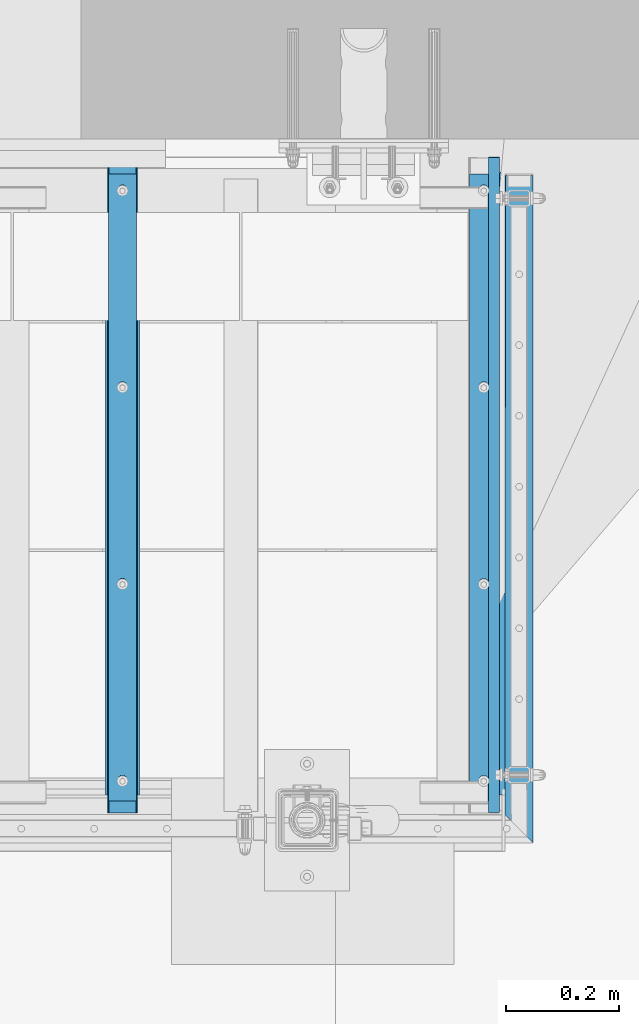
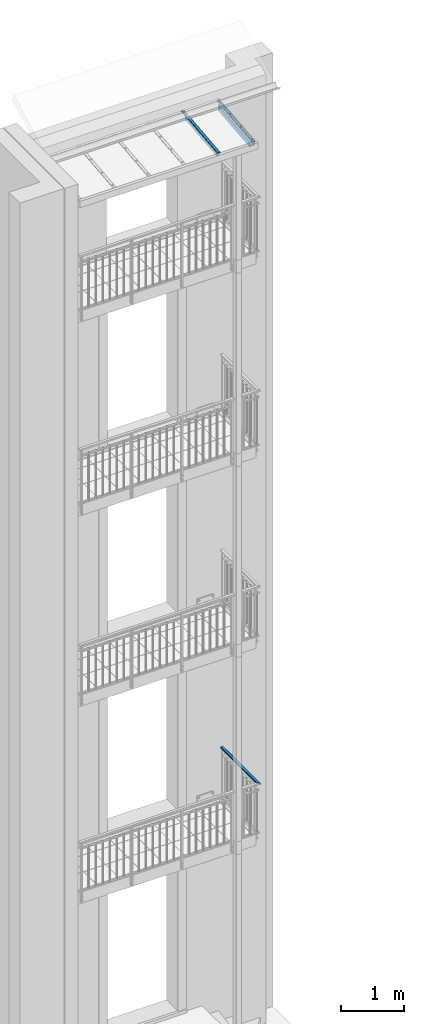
# One storey, part 45 of 162: 6 members, 1 beam, 19 openings.
"""IFC2X3 building model written with IfcOpenShell, lengths in millimetres."""

from ifc_helpers import new_model, entity, si_unit, converted_unit, point, frame, frame_2d, origin, origin_with_axes, origin_2d, origin_2d_with_axis, place, context, project, spatial, polyline, circle_curve, line_curve, trimmed, segment, composite_curve, rectangle, hollow_rectangle, circle, outline, extrude, clip, halfspace, material, element, save


model = new_model("IFC2X3")

# Units and contexts
model_context = context("Model", 3, precision=1e-09, world=origin_with_axes())
ifc_project = project(units=[si_unit("LENGTHUNIT", "METRE", prefix="MILLI"), si_unit("AREAUNIT", "SQUARE_METRE"), si_unit("VOLUMEUNIT", "CUBIC_METRE"), converted_unit("PLANEANGLEUNIT", "DEGREE", entity("IfcPlaneAngleMeasure", 0.01745329), si_unit("PLANEANGLEUNIT", "RADIAN"), dimensions=[0, 0, 0, 0, 0, 0, 0])], contexts=[model_context])

# Site, building, storey
site_placement = place(None, origin_with_axes())
site = spatial("IfcSite", under=ifc_project, at=site_placement, Name="Hermannstra?e 1a, 60318 Frankfurt", CompositionType="ELEMENT")
building_placement = place(site_placement, origin_with_axes())
building = spatial("IfcBuilding", under=site, at=building_placement, Name="Struktur 1", CompositionType="ELEMENT")
storey_placement = place(building_placement, origin_with_axes())
storey = spatial("IfcBuildingStorey", under=building, at=storey_placement, Name="Default Storey", CompositionType="ELEMENT", Elevation=0.0)

# Beam, openings
ifc_material_1 = material(Name="S235JR")
beam_placement = place(None, frame((5848.30936482, 2670.609373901, 4940.0), z_axis=(0.0, 1.0, 0.0), x_axis=(0.0, 0.0, -1.0)))
beam = element("IfcBeam", 1, at=beam_placement, inside=storey, material=ifc_material_1, Name="-", ObjectType="-", context=model_context, shape_type="Clipping", body=[
    clip(extrude(hollow_rectangle(XDim=30.0, YDim=50.0, WallThickness=3.0, InnerFilletRadius=3.0, OuterFilletRadius=6.0, at=origin_2d()), origin(), (0.0, 0.0, -1.0), 1196.231056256), halfspace(frame((4940.0, 2166.349288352, 1011.350702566), z_axis=(0.0, -0.707106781, 0.707106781), x_axis=(0.0, 0.707106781, 0.707106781)), True)),
])
opening_1_placement = place(beam_placement, frame((11.5, 0.0, -1065.001), z_axis=(-1.0, 0.0, 0.0), x_axis=(0.0, -1.0, 0.0)))
element("IfcOpeningElement", 2, at=opening_1_placement, cuts=beam, ObjectType="Opening", context=model_context, shape_type="SweptSolid", body=[
    extrude(circle(Radius=5.001, at=frame_2d((0.0, 5.001), x_axis=(1.0, 0.0))), origin(), (0.0, 0.0, -1.0), 4.0),
])
opening_2_placement = place(beam_placement, frame((11.5, 0.0, -40.0), z_axis=(1.0, 0.0, 0.0), x_axis=(0.0, 0.0, -1.0)))
element("IfcOpeningElement", 3, at=opening_2_placement, cuts=beam, ObjectType="Opening", context=model_context, shape_type="SweptSolid", body=[
    extrude(circle(Radius=5.001, at=origin_2d_with_axis()), origin(), (0.0, 0.0, 1.0), 4.0),
])
opening_3_placement = place(beam_placement, frame((0.0, -21.5, -1180.0), z_axis=(0.0, -1.0, 0.0), x_axis=(0.0, 0.0, 1.0)))
element("IfcOpeningElement", 4, at=opening_3_placement, cuts=beam, ObjectType="Opening", context=model_context, shape_type="SweptSolid", body=[
    extrude(circle(Radius=4.001, at=frame_2d((10.0, 0.0), x_axis=(1.0, 0.0))), origin(), (0.0, 0.0, 1.0), 4.0),
])

# Member, openings
member_1_placement = place(None, frame((5773.30936482, 2729.006063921, 17457.401226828), z_axis=(0.0, 0.994521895, 0.104528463), x_axis=(0.0, -0.104528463, 0.994521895)))
member_1 = element("IfcMember", 5, at=member_1_placement, inside=storey, material=ifc_material_1, Name="-", ObjectType="-", context=model_context, shape_type="Clipping", body=[
    clip(extrude(hollow_rectangle(XDim=100.0, YDim=100.0, WallThickness=4.0, InnerFilletRadius=4.0, OuterFilletRadius=8.0, at=origin_2d()), origin(), (0.0, 0.0, -1.0), 1154.995580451), halfspace(frame((-17076.5089462, -5106.079778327, -5206.08119254), z_axis=(0.0, 0.707106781, -0.707106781), x_axis=(-0.074115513, 0.705161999, 0.705161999)), True)),
])
opening_4_placement = place(member_1_placement, frame((28.999, -45.5, -1144.995580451), z_axis=(0.0, 1.0, 0.0), x_axis=(-1.0, 0.0, 0.0)))
element("IfcOpeningElement", 6, at=opening_4_placement, cuts=member_1, ObjectType="Opening", context=model_context, shape_type="SweptSolid", body=[
    extrude(circle(Radius=6.001, at=frame_2d((-6.001, 0.0), x_axis=(1.0, 0.0))), origin(), (0.0, 0.0, -1.0), 5.0),
])
opening_5_placement = place(member_1_placement, frame((-41.001, -45.5, -1144.995580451), z_axis=(0.0, 1.0, 0.0), x_axis=(-1.0, 0.0, 0.0)))
element("IfcOpeningElement", 7, at=opening_5_placement, cuts=member_1, ObjectType="Opening", context=model_context, shape_type="SweptSolid", body=[
    extrude(circle(Radius=6.001, at=frame_2d((-6.001, 0.0), x_axis=(1.0, 0.0))), origin(), (0.0, 0.0, -1.0), 5.0),
])

# Member
ifc_material_2 = material(Name="Alu")
member_2_placement = place(None, frame((5803.80936482, 2703.078061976, 17512.754242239), z_axis=(0.0, -0.994521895, -0.104528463), x_axis=(0.0, -0.104528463, 0.994521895)))
element("IfcMember", 8, at=member_2_placement, inside=storey, material=ifc_material_2, Name="Girder", ObjectType="Girder", context=model_context, shape_type="SweptSolid", body=[
    extrude(rectangle(XDim=8.0, YDim=20.0, at=origin_2d()), origin(), (0.0, 0.0, 1.0), 1164.99558045),
])

# Member, openings
member_3_placement = place(None, frame((5146.80936482, 2577.737210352, 17461.612395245), z_axis=(0.0, 0.994521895, 0.104528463), x_axis=(0.0, -0.104528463, 0.994521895)))
member_3 = element("IfcMember", 9, at=member_3_placement, inside=storey, material=ifc_material_1, Name="-", ObjectType="-", context=model_context, shape_type="SweptSolid", body=[
    extrude(hollow_rectangle(XDim=60.0, YDim=60.0, WallThickness=3.0, InnerFilletRadius=3.0, OuterFilletRadius=6.0, at=origin_2d()), origin(), (0.0, 0.0, -1.0), 1004.995580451),
])
opening_6_placement = place(member_3_placement, frame((0.0, -26.5, 0.0), z_axis=(0.0, -1.0, 0.0), x_axis=(1.0, 0.0, 0.0)))
element("IfcOpeningElement", 10, at=opening_6_placement, cuts=member_3, ObjectType="Opening", context=model_context, shape_type="SweptSolid", body=[
    extrude(circle(Radius=6.001, at=frame_2d((0.0, -10.0), x_axis=(1.0, 0.0))), origin(), (0.0, 0.0, 1.0), 4.0),
])
opening_7_placement = place(member_3_placement, frame((0.0, 26.5, -794.995580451), z_axis=(0.0, 1.0, 0.0), x_axis=(1.0, 0.0, 0.0)))
element("IfcOpeningElement", 11, at=opening_7_placement, cuts=member_3, ObjectType="Opening", context=model_context, shape_type="SweptSolid", body=[
    extrude(circle(Radius=6.001, at=frame_2d((0.0, 200.0), x_axis=(1.0, 0.0))), origin(), (0.0, 0.0, 1.0), 4.0),
])

ifc_material_3 = material(Name="Gummi")
member_4_placement = place(None, frame((5146.80936482, 1565.009235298, 17386.843906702), z_axis=(0.0, -0.994521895, -0.104528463), x_axis=(1.0, 0.0, 0.0)))
member_4 = element("IfcMember", 12, at=member_4_placement, inside=storey, material=ifc_material_3, Name="Girder", ObjectType="Girder", context=model_context, shape_type="SweptSolid", body=[
    extrude(outline(polyline([(-25.0, 1.5), (-25.0, -1.5), (25.0, -1.5), (25.0, 1.5), (-25.0, 1.5)])), origin(), (0.0, 0.0, -1.0), 1114.995580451),
])
opening_8_placement = place(member_4_placement, frame((2e-09, -2.0, -387.497790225), z_axis=(0.0, 1.0, 0.0), x_axis=(1.0, 0.0, 0.0)))
element("IfcOpeningElement", 13, at=opening_8_placement, cuts=member_4, ObjectType="Opening", context=model_context, shape_type="SweptSolid", body=[
    extrude(circle(Radius=8.001, at=origin_2d_with_axis()), origin(), (0.0, 0.0, 1.0), 4.0),
])
opening_9_placement = place(member_4_placement, frame((2e-09, -2.0, -1087.497790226), z_axis=(0.0, 1.0, 0.0), x_axis=(1.0, 0.0, 0.0)))
element("IfcOpeningElement", 14, at=opening_9_placement, cuts=member_4, ObjectType="Opening", context=model_context, shape_type="SweptSolid", body=[
    extrude(circle(Radius=8.001, at=origin_2d_with_axis()), origin(), (0.0, 0.0, 1.0), 4.0),
])
opening_10_placement = place(member_4_placement, frame((2e-09, -2.0, -737.497790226), z_axis=(0.0, 1.0, 0.0), x_axis=(1.0, 0.0, 0.0)))
element("IfcOpeningElement", 15, at=opening_10_placement, cuts=member_4, ObjectType="Opening", context=model_context, shape_type="SweptSolid", body=[
    extrude(circle(Radius=8.001, at=origin_2d_with_axis()), origin(), (0.0, 0.0, 1.0), 4.0),
])
opening_11_placement = place(member_4_placement, frame((2e-09, -2.0, -37.497790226), z_axis=(0.0, 1.0, 0.0), x_axis=(1.0, 0.0, 0.0)))
element("IfcOpeningElement", 16, at=opening_11_placement, cuts=member_4, ObjectType="Opening", context=model_context, shape_type="SweptSolid", body=[
    extrude(circle(Radius=8.001, at=origin_2d_with_axis()), origin(), (0.0, 0.0, 1.0), 4.0),
])

member_5_placement = place(None, frame((5146.80936482, 1543.575957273, 17399.432480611), z_axis=(0.0, -0.994521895, -0.104528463), x_axis=(1.0, 0.0, 0.0)))
member_5 = element("IfcMember", 17, at=member_5_placement, inside=storey, material=ifc_material_2, Name="Girder", ObjectType="Girder", context=model_context, shape_type="SweptSolid", body=[
    extrude(outline(composite_curve([segment(trimmed(line_curve((10.75, -4.5), (1.0, 0.0), 0.5), [point((10.75, -4.5))], [point((11.25, -4.5))], True, "CARTESIAN"), True, "CONTINUOUS"), segment(trimmed(line_curve((11.25, -4.5), (0.0, 1.0), 1.0), [point((11.25, -4.5))], [point((11.25, -3.5))], True, "CARTESIAN"), True, "CONTINUOUS"), segment(trimmed(line_curve((11.25, -3.5), (1.0, 0.0), 1.0), [point((11.25, -3.5))], [point((12.25, -3.5))], True, "CARTESIAN"), True, "CONTINUOUS"), segment(trimmed(line_curve((12.25, -3.5), (0.0, -1.0), 1.0), [point((12.25, -3.5))], [point((12.25, -4.5))], True, "CARTESIAN"), True, "CONTINUOUS"), segment(trimmed(line_curve((12.25, -4.5), (1.0, 0.0), 1.0), [point((12.25, -4.5))], [point((13.25, -4.5))], True, "CARTESIAN"), True, "CONTINUOUS"), segment(trimmed(line_curve((13.25, -4.5), (0.0, 1.0), 1.0), [point((13.25, -4.5))], [point((13.25, -3.5))], True, "CARTESIAN"), True, "CONTINUOUS"), segment(trimmed(line_curve((13.25, -3.5), (1.0, 0.0), 1.0), [point((13.25, -3.5))], [point((14.25, -3.5))], True, "CARTESIAN"), True, "CONTINUOUS"), segment(trimmed(line_curve((14.25, -3.5), (0.0, -1.0), 1.0), [point((14.25, -3.5))], [point((14.25, -4.5))], True, "CARTESIAN"), True, "CONTINUOUS"), segment(trimmed(line_curve((14.25, -4.5), (1.0, 0.0), 1.0), [point((14.25, -4.5))], [point((15.25, -4.5))], True, "CARTESIAN"), True, "CONTINUOUS"), segment(trimmed(line_curve((15.25, -4.5), (0.0, 1.0), 1.0), [point((15.25, -4.5))], [point((15.25, -3.5))], True, "CARTESIAN"), True, "CONTINUOUS"), segment(trimmed(line_curve((15.25, -3.5), (1.0, 0.0), 1.0), [point((15.25, -3.5))], [point((16.25, -3.5))], True, "CARTESIAN"), True, "CONTINUOUS"), segment(trimmed(line_curve((16.25, -3.5), (0.0, -1.0), 1.0), [point((16.25, -3.5))], [point((16.25, -4.5))], True, "CARTESIAN"), True, "CONTINUOUS"), segment(trimmed(line_curve((16.25, -4.5), (1.0, 0.0), 1.0), [point((16.25, -4.5))], [point((17.25, -4.5))], True, "CARTESIAN"), True, "CONTINUOUS"), segment(trimmed(line_curve((17.25, -4.5), (0.0, 1.0), 1.0), [point((17.25, -4.5))], [point((17.25, -3.5))], True, "CARTESIAN"), True, "CONTINUOUS"), segment(trimmed(line_curve((17.25, -3.5), (1.0, 0.0), 1.0), [point((17.25, -3.5))], [point((18.25, -3.5))], True, "CARTESIAN"), True, "CONTINUOUS"), segment(trimmed(line_curve((18.25, -3.5), (0.0, -1.0), 1.0), [point((18.25, -3.5))], [point((18.25, -4.5))], True, "CARTESIAN"), True, "CONTINUOUS"), segment(trimmed(line_curve((18.25, -4.5), (1.0, 0.0), 1.0), [point((18.25, -4.5))], [point((19.25, -4.5))], True, "CARTESIAN"), True, "CONTINUOUS"), segment(trimmed(line_curve((19.25, -4.5), (0.0, 1.0), 1.0), [point((19.25, -4.5))], [point((19.25, -3.5))], True, "CARTESIAN"), True, "CONTINUOUS"), segment(trimmed(line_curve((19.25, -3.5), (1.0, 0.0), 1.0), [point((19.25, -3.5))], [point((20.25, -3.5))], True, "CARTESIAN"), True, "CONTINUOUS"), segment(trimmed(line_curve((20.25, -3.5), (0.0, -1.0), 1.0), [point((20.25, -3.5))], [point((20.25, -4.5))], True, "CARTESIAN"), True, "CONTINUOUS"), segment(trimmed(line_curve((20.25, -4.5), (1.0, 0.0), 1.0), [point((20.25, -4.5))], [point((21.25, -4.5))], True, "CARTESIAN"), True, "CONTINUOUS"), segment(trimmed(line_curve((21.25, -4.5), (0.0, 1.0), 1.0), [point((21.25, -4.5))], [point((21.25, -3.5))], True, "CARTESIAN"), True, "CONTINUOUS"), segment(trimmed(line_curve((21.25, -3.5), (1.0, 0.0), 1.0), [point((21.25, -3.5))], [point((22.25, -3.5))], True, "CARTESIAN"), True, "CONTINUOUS"), segment(trimmed(line_curve((22.25, -3.5), (0.0, -1.0), 1.0), [point((22.25, -3.5))], [point((22.25, -4.5))], True, "CARTESIAN"), True, "CONTINUOUS"), segment(trimmed(line_curve((22.25, -4.5), (1.0, 0.0), 1.0), [point((22.25, -4.5))], [point((23.25, -4.5))], True, "CARTESIAN"), True, "CONTINUOUS"), segment(trimmed(line_curve((23.25, -4.5), (0.0, 1.0), 1.0), [point((23.25, -4.5))], [point((23.25, -3.5))], True, "CARTESIAN"), True, "CONTINUOUS"), segment(trimmed(line_curve((23.25, -3.5), (1.0, 0.0), 1.0), [point((23.25, -3.5))], [point((24.25, -3.5))], True, "CARTESIAN"), True, "CONTINUOUS"), segment(trimmed(line_curve((24.25, -3.5), (0.0, -1.0), 1.0), [point((24.25, -3.5))], [point((24.25, -4.5))], True, "CARTESIAN"), True, "CONTINUOUS"), segment(trimmed(line_curve((24.25, -4.5), (1.0, 0.0), 1.0), [point((24.25, -4.5))], [point((25.25, -4.5))], True, "CARTESIAN"), True, "CONTINUOUS"), segment(trimmed(line_curve((25.25, -4.5), (0.0, 1.0), 1.0), [point((25.25, -4.5))], [point((25.25, -3.5))], True, "CARTESIAN"), True, "CONTINUOUS"), segment(trimmed(line_curve((25.25, -3.5), (1.0, 0.0), 1.0), [point((25.25, -3.5))], [point((26.25, -3.5))], True, "CARTESIAN"), True, "CONTINUOUS"), segment(trimmed(line_curve((26.25, -3.5), (0.0, -1.0), 1.0), [point((26.25, -3.5))], [point((26.25, -4.5))], True, "CARTESIAN"), True, "CONTINUOUS"), segment(trimmed(line_curve((26.25, -4.5), (1.0, 0.0), 0.5), [point((26.25, -4.5))], [point((26.75, -4.5))], True, "CARTESIAN"), True, "CONTINUOUS"), segment(trimmed(line_curve((26.75, -4.5), (0.0, 1.0), 4.0), [point((26.75, -4.5))], [point((26.75, -0.5))], True, "CARTESIAN"), True, "CONTINUOUS"), segment(trimmed(line_curve((26.75, -0.5), (-1.0, 0.0), 1.75), [point((26.75, -0.5))], [point((25.0, -0.5))], True, "CARTESIAN"), True, "CONTINUOUS"), segment(trimmed(line_curve((25.0, -0.5), (0.0, 1.0), 1.5), [point((25.0, -0.5))], [point((25.0, 1.0))], True, "CARTESIAN"), True, "CONTINUOUS"), segment(trimmed(circle_curve(frame_2d((21.499999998, 0.999999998), x_axis=(1.0, 0.0)), 3.500000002), [point((25.0, 1.0))], [point((21.5, 4.5))], True, "CARTESIAN"), True, "CONTINUOUS"), segment(trimmed(line_curve((21.5, 4.5), (-1.0, 0.0), 43.0), [point((21.5, 4.5))], [point((-21.5, 4.5))], True, "CARTESIAN"), True, "CONTINUOUS"), segment(trimmed(circle_curve(frame_2d((-21.499999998, 0.999999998), x_axis=(1.0, 0.0)), 3.500000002), [point((-21.5, 4.5))], [point((-25.0, 1.0))], True, "CARTESIAN"), True, "CONTINUOUS"), segment(trimmed(line_curve((-25.0, 1.0), (0.0, -1.0), 1.5), [point((-25.0, 1.0))], [point((-25.0, -0.5))], True, "CARTESIAN"), True, "CONTINUOUS"), segment(trimmed(line_curve((-25.0, -0.5), (-1.0, 0.0), 1.75), [point((-25.0, -0.5))], [point((-26.75, -0.5))], True, "CARTESIAN"), True, "CONTINUOUS"), segment(trimmed(line_curve((-26.75, -0.5), (0.0, -1.0), 4.0), [point((-26.75, -0.5))], [point((-26.75, -4.5))], True, "CARTESIAN"), True, "CONTINUOUS"), segment(trimmed(line_curve((-26.75, -4.5), (1.0, 0.0), 0.5), [point((-26.75, -4.5))], [point((-26.25, -4.5))], True, "CARTESIAN"), True, "CONTINUOUS"), segment(trimmed(line_curve((-26.25, -4.5), (0.0, 1.0), 1.0), [point((-26.25, -4.5))], [point((-26.25, -3.5))], True, "CARTESIAN"), True, "CONTINUOUS"), segment(trimmed(line_curve((-26.25, -3.5), (1.0, 0.0), 1.0), [point((-26.25, -3.5))], [point((-25.25, -3.5))], True, "CARTESIAN"), True, "CONTINUOUS"), segment(trimmed(line_curve((-25.25, -3.5), (0.0, -1.0), 1.0), [point((-25.25, -3.5))], [point((-25.25, -4.5))], True, "CARTESIAN"), True, "CONTINUOUS"), segment(trimmed(line_curve((-25.25, -4.5), (1.0, 0.0), 1.0), [point((-25.25, -4.5))], [point((-24.25, -4.5))], True, "CARTESIAN"), True, "CONTINUOUS"), segment(trimmed(line_curve((-24.25, -4.5), (0.0, 1.0), 1.0), [point((-24.25, -4.5))], [point((-24.25, -3.5))], True, "CARTESIAN"), True, "CONTINUOUS"), segment(trimmed(line_curve((-24.25, -3.5), (1.0, 0.0), 1.0), [point((-24.25, -3.5))], [point((-23.25, -3.5))], True, "CARTESIAN"), True, "CONTINUOUS"), segment(trimmed(line_curve((-23.25, -3.5), (0.0, -1.0), 1.0), [point((-23.25, -3.5))], [point((-23.25, -4.5))], True, "CARTESIAN"), True, "CONTINUOUS"), segment(trimmed(line_curve((-23.25, -4.5), (1.0, 0.0), 1.0), [point((-23.25, -4.5))], [point((-22.25, -4.5))], True, "CARTESIAN"), True, "CONTINUOUS"), segment(trimmed(line_curve((-22.25, -4.5), (0.0, 1.0), 1.0), [point((-22.25, -4.5))], [point((-22.25, -3.5))], True, "CARTESIAN"), True, "CONTINUOUS"), segment(trimmed(line_curve((-22.25, -3.5), (1.0, 0.0), 1.0), [point((-22.25, -3.5))], [point((-21.25, -3.5))], True, "CARTESIAN"), True, "CONTINUOUS"), segment(trimmed(line_curve((-21.25, -3.5), (0.0, -1.0), 1.0), [point((-21.25, -3.5))], [point((-21.25, -4.5))], True, "CARTESIAN"), True, "CONTINUOUS"), segment(trimmed(line_curve((-21.25, -4.5), (1.0, 0.0), 1.0), [point((-21.25, -4.5))], [point((-20.25, -4.5))], True, "CARTESIAN"), True, "CONTINUOUS"), segment(trimmed(line_curve((-20.25, -4.5), (0.0, 1.0), 1.0), [point((-20.25, -4.5))], [point((-20.25, -3.5))], True, "CARTESIAN"), True, "CONTINUOUS"), segment(trimmed(line_curve((-20.25, -3.5), (1.0, 0.0), 1.0), [point((-20.25, -3.5))], [point((-19.25, -3.5))], True, "CARTESIAN"), True, "CONTINUOUS"), segment(trimmed(line_curve((-19.25, -3.5), (0.0, -1.0), 1.0), [point((-19.25, -3.5))], [point((-19.25, -4.5))], True, "CARTESIAN"), True, "CONTINUOUS"), segment(trimmed(line_curve((-19.25, -4.5), (1.0, 0.0), 1.0), [point((-19.25, -4.5))], [point((-18.25, -4.5))], True, "CARTESIAN"), True, "CONTINUOUS"), segment(trimmed(line_curve((-18.25, -4.5), (0.0, 1.0), 1.0), [point((-18.25, -4.5))], [point((-18.25, -3.5))], True, "CARTESIAN"), True, "CONTINUOUS"), segment(trimmed(line_curve((-18.25, -3.5), (1.0, 0.0), 1.0), [point((-18.25, -3.5))], [point((-17.25, -3.5))], True, "CARTESIAN"), True, "CONTINUOUS"), segment(trimmed(line_curve((-17.25, -3.5), (0.0, -1.0), 1.0), [point((-17.25, -3.5))], [point((-17.25, -4.5))], True, "CARTESIAN"), True, "CONTINUOUS"), segment(trimmed(line_curve((-17.25, -4.5), (1.0, 0.0), 1.0), [point((-17.25, -4.5))], [point((-16.25, -4.5))], True, "CARTESIAN"), True, "CONTINUOUS"), segment(trimmed(line_curve((-16.25, -4.5), (0.0, 1.0), 1.0), [point((-16.25, -4.5))], [point((-16.25, -3.5))], True, "CARTESIAN"), True, "CONTINUOUS"), segment(trimmed(line_curve((-16.25, -3.5), (1.0, 0.0), 1.0), [point((-16.25, -3.5))], [point((-15.25, -3.5))], True, "CARTESIAN"), True, "CONTINUOUS"), segment(trimmed(line_curve((-15.25, -3.5), (0.0, -1.0), 1.0), [point((-15.25, -3.5))], [point((-15.25, -4.5))], True, "CARTESIAN"), True, "CONTINUOUS"), segment(trimmed(line_curve((-15.25, -4.5), (1.0, 0.0), 1.0), [point((-15.25, -4.5))], [point((-14.25, -4.5))], True, "CARTESIAN"), True, "CONTINUOUS"), segment(trimmed(line_curve((-14.25, -4.5), (0.0, 1.0), 1.0), [point((-14.25, -4.5))], [point((-14.25, -3.5))], True, "CARTESIAN"), True, "CONTINUOUS"), segment(trimmed(line_curve((-14.25, -3.5), (1.0, 0.0), 1.0), [point((-14.25, -3.5))], [point((-13.25, -3.5))], True, "CARTESIAN"), True, "CONTINUOUS"), segment(trimmed(line_curve((-13.25, -3.5), (0.0, -1.0), 1.0), [point((-13.25, -3.5))], [point((-13.25, -4.5))], True, "CARTESIAN"), True, "CONTINUOUS"), segment(trimmed(line_curve((-13.25, -4.5), (1.0, 0.0), 1.0), [point((-13.25, -4.5))], [point((-12.25, -4.5))], True, "CARTESIAN"), True, "CONTINUOUS"), segment(trimmed(line_curve((-12.25, -4.5), (0.0, 1.0), 1.0), [point((-12.25, -4.5))], [point((-12.25, -3.5))], True, "CARTESIAN"), True, "CONTINUOUS"), segment(trimmed(line_curve((-12.25, -3.5), (1.0, 0.0), 1.0), [point((-12.25, -3.5))], [point((-11.25, -3.5))], True, "CARTESIAN"), True, "CONTINUOUS"), segment(trimmed(line_curve((-11.25, -3.5), (0.0, -1.0), 1.0), [point((-11.25, -3.5))], [point((-11.25, -4.5))], True, "CARTESIAN"), True, "CONTINUOUS"), segment(trimmed(line_curve((-11.25, -4.5), (1.0, 0.0), 0.5), [point((-11.25, -4.5))], [point((-10.75, -4.5))], True, "CARTESIAN"), True, "CONTINUOUS"), segment(trimmed(line_curve((-10.75, -4.5), (0.0, 1.0), 4.0), [point((-10.75, -4.5))], [point((-10.75, -0.5))], True, "CARTESIAN"), True, "CONTINUOUS"), segment(trimmed(line_curve((-10.75, -0.5), (-1.0, 0.0), 1.75), [point((-10.75, -0.5))], [point((-12.5, -0.5))], True, "CARTESIAN"), True, "CONTINUOUS"), segment(trimmed(line_curve((-12.5, -0.5), (0.0, 1.0), 3.0), [point((-12.5, -0.5))], [point((-12.5, 2.5))], True, "CARTESIAN"), True, "CONTINUOUS"), segment(trimmed(line_curve((-12.5, 2.5), (1.0, 0.0), 25.0), [point((-12.5, 2.5))], [point((12.5, 2.5))], True, "CARTESIAN"), True, "CONTINUOUS"), segment(trimmed(line_curve((12.5, 2.5), (0.0, -1.0), 3.0), [point((12.5, 2.5))], [point((12.5, -0.5))], True, "CARTESIAN"), True, "CONTINUOUS"), segment(trimmed(line_curve((12.5, -0.5), (-1.0, 0.0), 1.75), [point((12.5, -0.5))], [point((10.75, -0.5))], True, "CARTESIAN"), True, "CONTINUOUS"), segment(trimmed(line_curve((10.75, -0.5), (0.0, -1.0), 4.0), [point((10.75, -0.5))], [point((10.75, -4.5))], True, "CARTESIAN"), True, "CONTINUOUS")], self_intersect=False), holes=[composite_curve([segment(trimmed(line_curve((16.25, -0.5), (1.0, 0.0), 5.0), [point((16.25, -0.5))], [point((21.25, -0.5))], True, "CARTESIAN"), True, "CONTINUOUS"), segment(trimmed(line_curve((21.25, -0.5), (0.0, 1.0), 1.5), [point((21.25, -0.5))], [point((21.25, 1.0))], True, "CARTESIAN"), True, "CONTINUOUS"), segment(trimmed(line_curve((21.25, 1.0), (1.0, 0.0), 2.25), [point((21.25, 1.0))], [point((23.5, 1.0))], True, "CARTESIAN"), True, "CONTINUOUS"), segment(trimmed(circle_curve(frame_2d((21.499999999, 0.999999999), x_axis=(1.0, 0.0)), 2.000000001), [point((23.5, 1.0))], [point((21.5, 3.0))], True, "CARTESIAN"), True, "CONTINUOUS"), segment(trimmed(line_curve((21.5, 3.0), (-1.0, 0.0), 7.5), [point((21.5, 3.0))], [point((14.0, 3.0))], True, "CARTESIAN"), True, "CONTINUOUS"), segment(trimmed(line_curve((14.0, 3.0), (0.0, -1.0), 2.0), [point((14.0, 3.0))], [point((14.0, 1.0))], True, "CARTESIAN"), True, "CONTINUOUS"), segment(trimmed(line_curve((14.0, 1.0), (1.0, 0.0), 2.25), [point((14.0, 1.0))], [point((16.25, 1.0))], True, "CARTESIAN"), True, "CONTINUOUS"), segment(trimmed(line_curve((16.25, 1.0), (0.0, -1.0), 1.5), [point((16.25, 1.0))], [point((16.25, -0.5))], True, "CARTESIAN"), True, "CONTINUOUS")], self_intersect=False), composite_curve([segment(trimmed(line_curve((-16.25, -0.5), (0.0, 1.0), 1.5), [point((-16.25, -0.5))], [point((-16.25, 1.0))], True, "CARTESIAN"), True, "CONTINUOUS"), segment(trimmed(line_curve((-16.25, 1.0), (1.0, 0.0), 2.25), [point((-16.25, 1.0))], [point((-14.0, 1.0))], True, "CARTESIAN"), True, "CONTINUOUS"), segment(trimmed(line_curve((-14.0, 1.0), (0.0, 1.0), 2.0), [point((-14.0, 1.0))], [point((-14.0, 3.0))], True, "CARTESIAN"), True, "CONTINUOUS"), segment(trimmed(line_curve((-14.0, 3.0), (-1.0, 0.0), 7.5), [point((-14.0, 3.0))], [point((-21.5, 3.0))], True, "CARTESIAN"), True, "CONTINUOUS"), segment(trimmed(circle_curve(frame_2d((-21.499999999, 0.999999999), x_axis=(1.0, 0.0)), 2.000000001), [point((-21.5, 3.0))], [point((-23.5, 1.0))], True, "CARTESIAN"), True, "CONTINUOUS"), segment(trimmed(line_curve((-23.5, 1.0), (1.0, 0.0), 2.25), [point((-23.5, 1.0))], [point((-21.25, 1.0))], True, "CARTESIAN"), True, "CONTINUOUS"), segment(trimmed(line_curve((-21.25, 1.0), (0.0, -1.0), 1.5), [point((-21.25, 1.0))], [point((-21.25, -0.5))], True, "CARTESIAN"), True, "CONTINUOUS"), segment(trimmed(line_curve((-21.25, -0.5), (1.0, 0.0), 5.0), [point((-21.25, -0.5))], [point((-16.25, -0.5))], True, "CARTESIAN"), True, "CONTINUOUS")], self_intersect=False)]), origin(), (0.0, 0.0, -1.0), 1164.995580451),
])
opening_12_placement = place(member_5_placement, frame((2e-09, 2.0, -57.497790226), z_axis=(0.0, 1.0, 0.0), x_axis=(1.0, 0.0, 0.0)))
element("IfcOpeningElement", 18, at=opening_12_placement, cuts=member_5, ObjectType="Opening", context=model_context, shape_type="SweptSolid", body=[
    extrude(circle(Radius=6.001, at=origin_2d_with_axis()), origin(), (0.0, 0.0, 1.0), 3.0),
])
opening_13_placement = place(member_5_placement, frame((2e-09, 2.0, -757.497790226), z_axis=(0.0, 1.0, 0.0), x_axis=(1.0, 0.0, 0.0)))
element("IfcOpeningElement", 19, at=opening_13_placement, cuts=member_5, ObjectType="Opening", context=model_context, shape_type="SweptSolid", body=[
    extrude(circle(Radius=6.001, at=origin_2d_with_axis()), origin(), (0.0, 0.0, 1.0), 3.0),
])
opening_14_placement = place(member_5_placement, frame((2e-09, 2.0, -1107.497790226), z_axis=(0.0, 1.0, 0.0), x_axis=(1.0, 0.0, 0.0)))
element("IfcOpeningElement", 20, at=opening_14_placement, cuts=member_5, ObjectType="Opening", context=model_context, shape_type="SweptSolid", body=[
    extrude(circle(Radius=6.001, at=origin_2d_with_axis()), origin(), (0.0, 0.0, 1.0), 3.0),
])
opening_15_placement = place(member_5_placement, frame((2e-09, 2.0, -407.497790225), z_axis=(0.0, 1.0, 0.0), x_axis=(1.0, 0.0, 0.0)))
element("IfcOpeningElement", 21, at=opening_15_placement, cuts=member_5, ObjectType="Opening", context=model_context, shape_type="SweptSolid", body=[
    extrude(circle(Radius=6.001, at=origin_2d_with_axis()), origin(), (0.0, 0.0, 1.0), 3.0),
])

member_6_placement = place(None, frame((5785.80936482, 1565.009235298, 17386.843906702), z_axis=(0.0, -0.994521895, -0.104528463), x_axis=(1.0, 0.0, 0.0)))
member_6 = element("IfcMember", 22, at=member_6_placement, inside=storey, material=ifc_material_3, Name="Girder", ObjectType="Girder", context=model_context, shape_type="SweptSolid", body=[
    extrude(outline(polyline([(-25.0, 1.5), (-25.0, -1.5), (25.0, -1.5), (25.0, 1.5), (-25.0, 1.5)])), origin(), (0.0, 0.0, -1.0), 1114.995580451),
])
opening_16_placement = place(member_6_placement, frame((2e-09, -2.0, -37.497790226), z_axis=(0.0, 1.0, 0.0), x_axis=(1.0, 0.0, 0.0)))
element("IfcOpeningElement", 23, at=opening_16_placement, cuts=member_6, ObjectType="Opening", context=model_context, shape_type="SweptSolid", body=[
    extrude(circle(Radius=8.001, at=origin_2d_with_axis()), origin(), (0.0, 0.0, 1.0), 4.0),
])
opening_17_placement = place(member_6_placement, frame((2e-09, -2.0, -737.497790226), z_axis=(0.0, 1.0, 0.0), x_axis=(1.0, 0.0, 0.0)))
element("IfcOpeningElement", 24, at=opening_17_placement, cuts=member_6, ObjectType="Opening", context=model_context, shape_type="SweptSolid", body=[
    extrude(circle(Radius=8.001, at=origin_2d_with_axis()), origin(), (0.0, 0.0, 1.0), 4.0),
])
opening_18_placement = place(member_6_placement, frame((2e-09, -2.0, -387.497790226), z_axis=(0.0, 1.0, 0.0), x_axis=(1.0, 0.0, 0.0)))
element("IfcOpeningElement", 25, at=opening_18_placement, cuts=member_6, ObjectType="Opening", context=model_context, shape_type="SweptSolid", body=[
    extrude(circle(Radius=8.001, at=origin_2d_with_axis()), origin(), (0.0, 0.0, 1.0), 4.0),
])
opening_19_placement = place(member_6_placement, frame((2e-09, -2.0, -1087.497790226), z_axis=(0.0, 1.0, 0.0), x_axis=(1.0, 0.0, 0.0)))
element("IfcOpeningElement", 26, at=opening_19_placement, cuts=member_6, ObjectType="Opening", context=model_context, shape_type="SweptSolid", body=[
    extrude(circle(Radius=8.001, at=origin_2d_with_axis()), origin(), (0.0, 0.0, 1.0), 4.0),
])

save(model, "model.ifc")
